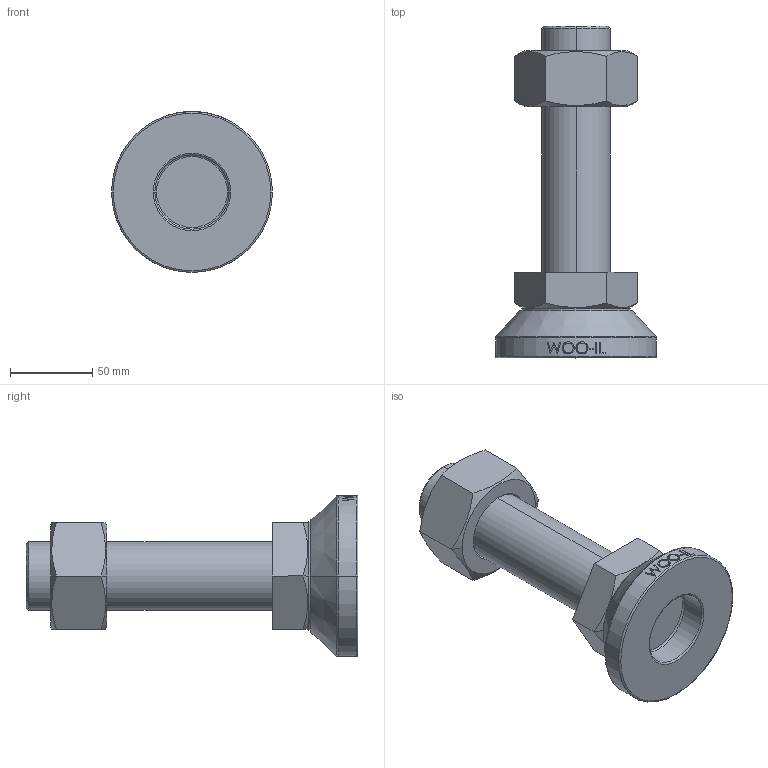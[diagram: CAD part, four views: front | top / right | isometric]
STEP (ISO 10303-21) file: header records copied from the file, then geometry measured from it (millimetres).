
FILE_DESCRIPTION (( 'STEP AP214' ), '1' );
FILE_NAME ('MF98-M42-150.step', '2021-02-03T08:24:23', ( '' ), ( '' ), 'SwSTEP 2.0', 'SolidWorks 2019', '' );
FILE_SCHEMA (( 'AUTOMOTIVE_DESIGN' ));
Length unit declared in the file: millimetre
Products named in the file (2): MF98-M42-150
Bounding box: 98 x 202 x 98 mm (x, y, z)
Volume: 525090.9 mm3; surface area: 70825.4 mm2
Topology: 3 solids, 3 shells, 106 faces, 243 edges, 154 vertices
Faces by surface type: plane 48, cylinder 18, bspline 16, cone 14, torus 10
Entity records: 4566 total; most frequent: CARTESIAN_POINT 2223, ORIENTED_EDGE 486, DIRECTION 439, EDGE_CURVE 243, AXIS2_PLACEMENT_3D 170, VERTEX_POINT 154, EDGE_LOOP 119, FACE_OUTER_BOUND 106
